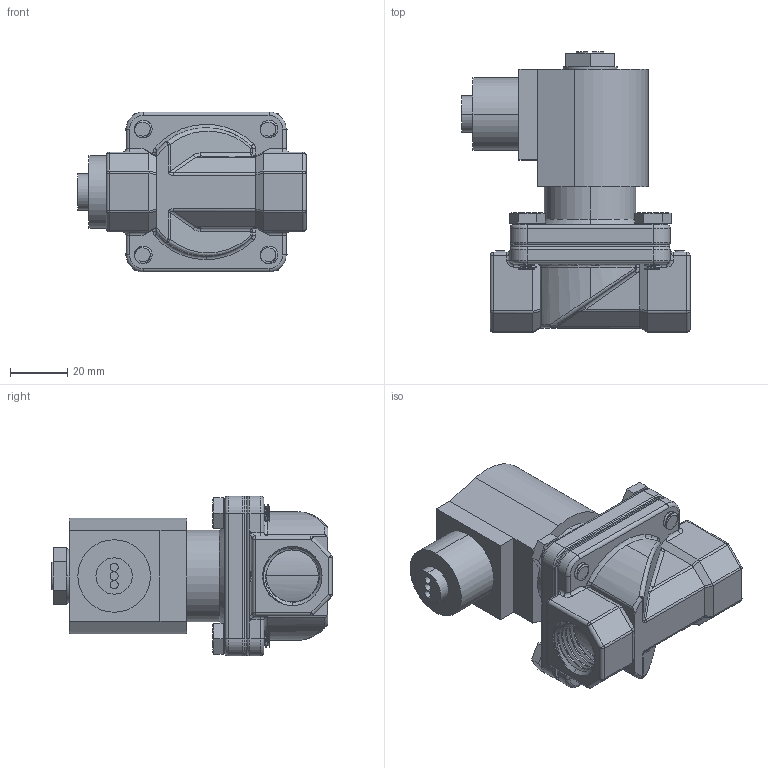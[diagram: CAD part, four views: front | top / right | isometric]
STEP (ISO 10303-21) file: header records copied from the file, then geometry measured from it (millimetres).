
FILE_DESCRIPTION (( 'STEP AP203' ), '1' );
FILE_NAME ('S201G_D.STEP', '2022-02-04T19:12:24', ( '' ), ( '' ), 'SwSTEP 2.0', 'SolidWorks 2020', '' );
FILE_SCHEMA (( 'CONFIG_CONTROL_DESIGN' ));
Length unit declared in the file: inch
Products named in the file (1): S201G_D
Bounding box: 79.91 x 98.22 x 56.01 mm (x, y, z)
Volume: 168574.5 mm3; surface area: 28829.9 mm2
Topology: 1 solids, 1 shells, 470 faces, 1173 edges, 724 vertices
Faces by surface type: cylinder 178, plane 169, bspline 56, torus 35, cone 16, sphere 16
Entity records: 28086 total; most frequent: CARTESIAN_POINT 17670, ORIENTED_EDGE 2326, DIRECTION 1974, EDGE_CURVE 1163, VERTEX_POINT 724, AXIS2_PLACEMENT_3D 722, LINE 530, VECTOR 530
